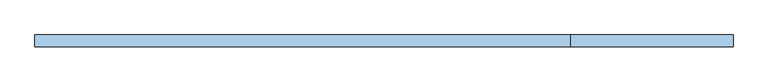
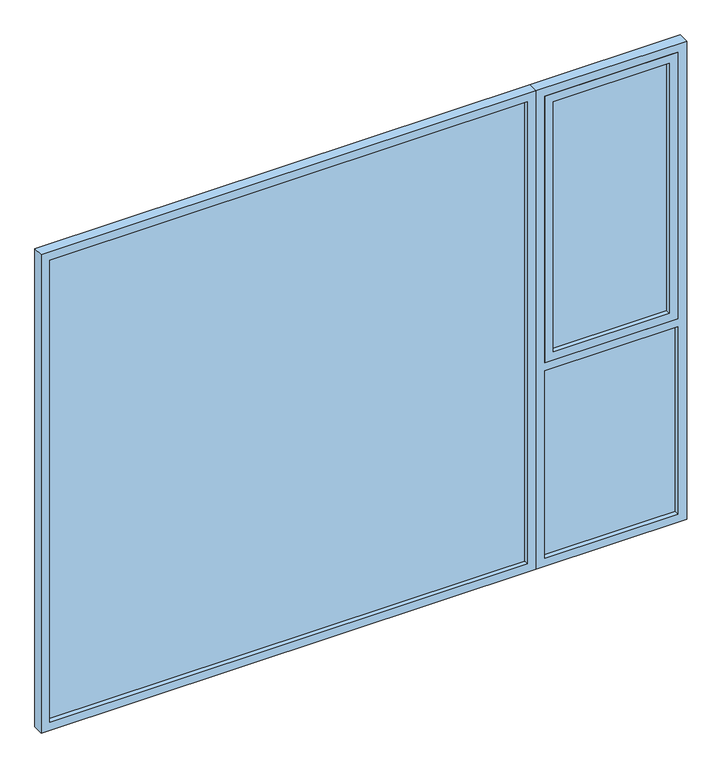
"""IFC4 building model written with IfcOpenShell, lengths in millimetres: window geometry, VENT_ALUM_PROY_ARRIBA_LATERAL FIJO COMPLETO : V12-VENT_ALUM_PROY_ARRIBA_LATERAL FIJO COMPLETO."""

from ifc_helpers import new_model, si_unit, frame, origin, place, context, project, spatial, polyline, outline, extrude, source, transform, mapped, element, save


def window_554a51fe(model_context):
    return source(origin(), model_context, "Body", "SweptSolid", [
        extrude(outline(polyline([(2810.0, 840.0), (1500.0, 840.0), (1500.0, 1460.0), (2810.0, 1460.0), (2810.0, 840.0)]), holes=[polyline([(1540.0, 880.0), (2770.0, 880.0), (2770.0, 1420.0), (1540.0, 1420.0), (1540.0, 880.0)])]), frame((0.0, -25.0, 0.0), z_axis=(0.0, 1.0, 0.0), x_axis=(0.0, 0.0, 1.0)), (0.0, 0.0, 1.0), 50.0),
        extrude(outline(polyline([(2850.0, 800.0), (2850.0, -1500.0), (500.0, -1500.0), (500.0, 800.0), (2850.0, 800.0)]), holes=[polyline([(540.0, 760.0), (540.0, -1460.0), (2810.0, -1460.0), (2810.0, 760.0), (540.0, 760.0)])]), frame((0.0, -25.0, 0.0), z_axis=(0.0, 1.0, 0.0), x_axis=(0.0, 0.0, 1.0)), (0.0, 0.0, 1.0), 50.0),
        extrude(outline(polyline([(500.0, 800.0), (500.0, 1500.0), (2850.0, 1500.0), (2850.0, 800.0), (500.0, 800.0)]), holes=[polyline([(1460.0, 1460.0), (540.0, 1460.0), (540.0, 840.0), (1460.0, 840.0), (1460.0, 1460.0)]), polyline([(1500.0, 840.0), (2810.0, 840.0), (2810.0, 1460.0), (1500.0, 1460.0), (1500.0, 840.0)])]), frame((0.0, -25.0, 0.0), z_axis=(0.0, 1.0, 0.0), x_axis=(0.0, 0.0, 1.0)), (0.0, 0.0, 1.0), 50.0),
        extrude(outline(polyline([(1420.0, 3.0), (1420.0, -3.0), (880.0, -3.0), (880.0, 3.0), (1420.0, 3.0)])), frame((0.0, 0.0, 1540.0), z_axis=(0.0, 0.0, 1.0), x_axis=(1.0, 0.0, 0.0)), (0.0, 0.0, 1.0), 1230.0),
        extrude(outline(polyline([(1460.0, 3.0), (1460.0, -3.0), (840.0, -3.0), (840.0, 3.0), (1460.0, 3.0)])), frame((0.0, 0.0, 540.0), z_axis=(0.0, 0.0, 1.0), x_axis=(1.0, 0.0, 0.0)), (0.0, 0.0, 1.0), 920.0),
        extrude(outline(polyline([(760.0, 3.0), (760.0, -3.0), (-1460.0, -3.0), (-1460.0, 3.0), (760.0, 3.0)])), frame((0.0, 0.0, 540.0), z_axis=(0.0, 0.0, 1.0), x_axis=(1.0, 0.0, 0.0)), (0.0, 0.0, 1.0), 2270.0),
    ])


if __name__ == "__main__":
    model = new_model("IFC4")
    model_context = context("Model", 3, world=origin())
    ifc_project = project(units=[si_unit("LENGTHUNIT", "METRE", prefix="MILLI")], contexts=[model_context])
    site = spatial("IfcSite", under=ifc_project)
    building = spatial("IfcBuilding", under=site)
    placement = place(None, origin())
    window_shape = window_554a51fe(model_context)
    element("IfcWindow", 1, ObjectType="VENT_ALUM_PROY_ARRIBA_LATERAL FIJO COMPLETO : V12-VENT_ALUM_PROY_ARRIBA_LATERAL FIJO COMPLETO", at=placement, inside=building, context=model_context, shape_type="MappedRepresentation", body=[
        mapped(window_shape, transform((0.0, 0.0, 0.0), x_axis=(1.0, 0.0, 0.0), y_axis=(0.0, 1.0, 0.0), z_axis=(0.0, 0.0, 1.0))),
    ])
    save(model, "model.ifc")
